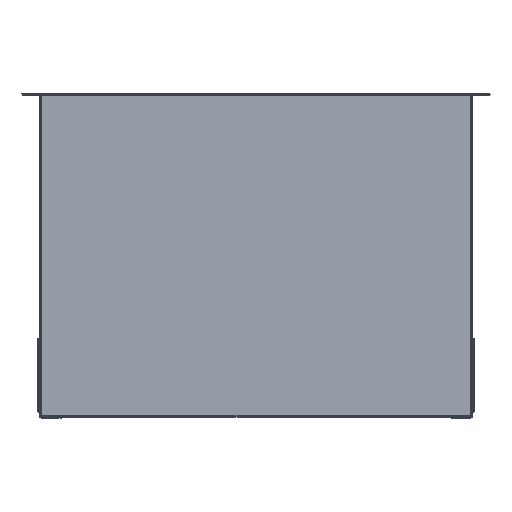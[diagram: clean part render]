
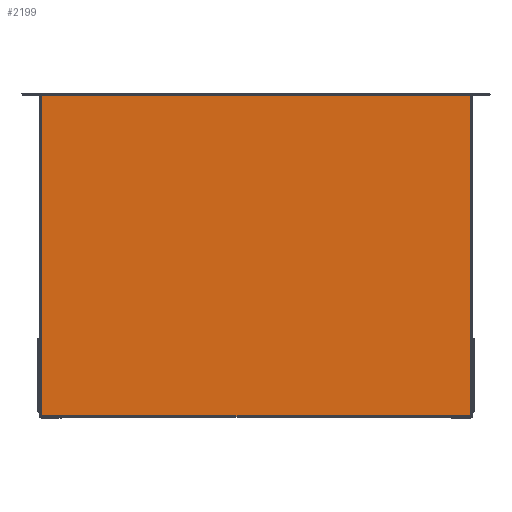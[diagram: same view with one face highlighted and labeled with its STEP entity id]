
A CAD part, front view. The second image highlights one B-rep face of the part: STEP entity #2199.
In plain terms, the highlighted planar face has unit normal (0, -1, -0.016) as drawn and (0, 0, -1) by its records, which use the part's own axes.
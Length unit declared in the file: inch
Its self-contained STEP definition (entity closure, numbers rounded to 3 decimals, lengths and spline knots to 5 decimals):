
#32 = VECTOR ( 'NONE', #24363, 39.37008 ) ;
#471 = DIRECTION ( 'NONE',  ( 1., 0., 0. ) ) ;
#1344 = ORIENTED_EDGE ( 'NONE', *, *, #24750, .F. ) ;
#1362 = ORIENTED_EDGE ( 'NONE', *, *, #22458, .F. ) ;
#1681 = ORIENTED_EDGE ( 'NONE', *, *, #26361, .F. ) ;
#1697 = CARTESIAN_POINT ( 'NONE',  ( 25.45213, 1.49421, 0. ) ) ;
#1872 = VERTEX_POINT ( 'NONE', #3473 ) ;
#1912 = VECTOR ( 'NONE', #471, 39.37008 ) ;
#2199 = ADVANCED_FACE ( 'NONE', ( #18298 ), #14501, .F. ) ;
#2871 = EDGE_CURVE ( 'NONE', #14526, #8689, #27487, .T. ) ;
#3134 = ORIENTED_EDGE ( 'NONE', *, *, #11231, .F. ) ;
#3299 = LINE ( 'NONE', #10433, #8438 ) ;
#3351 = LINE ( 'NONE', #14945, #25249 ) ;
#3473 = CARTESIAN_POINT ( 'NONE',  ( 50.62918, 1.50296, 0. ) ) ;
#3677 = DIRECTION ( 'NONE',  ( 0., 1., 0. ) ) ;
#3775 = EDGE_CURVE ( 'NONE', #8281, #1872, #14612, .T. ) ;
#3875 = DIRECTION ( 'NONE',  ( 0., 0., 1. ) ) ;
#4479 = ORIENTED_EDGE ( 'NONE', *, *, #12285, .F. ) ;
#4561 = ORIENTED_EDGE ( 'NONE', *, *, #7338, .F. ) ;
#4940 = LINE ( 'NONE', #12006, #26759 ) ;
#5034 = VECTOR ( 'NONE', #23589, 39.37008 ) ;
#5159 = VERTEX_POINT ( 'NONE', #14443 ) ;
#5654 = DIRECTION ( 'NONE',  ( -1., 0., 0. ) ) ;
#5814 = LINE ( 'NONE', #15849, #32 ) ;
#6433 = CARTESIAN_POINT ( 'NONE',  ( 25.45213, 35.33911, 0. ) ) ;
#6521 = VERTEX_POINT ( 'NONE', #6991 ) ;
#6991 = CARTESIAN_POINT ( 'NONE',  ( 25.40828, 35.33526, 0. ) ) ;
#7162 = ORIENTED_EDGE ( 'NONE', *, *, #3775, .F. ) ;
#7163 = EDGE_CURVE ( 'NONE', #8689, #16101, #10763, .T. ) ;
#7338 = EDGE_CURVE ( 'NONE', #26175, #26536, #12399, .T. ) ;
#7408 = DIRECTION ( 'NONE',  ( 1., 0., 0. ) ) ;
#7529 = CARTESIAN_POINT ( 'NONE',  ( 50.62918, 35.32651, 0. ) ) ;
#7702 = EDGE_CURVE ( 'NONE', #1872, #14526, #24853, .T. ) ;
#8015 = LINE ( 'NONE', #24993, #8664 ) ;
#8237 = CARTESIAN_POINT ( 'NONE',  ( 25.45213, 35.33911, 0. ) ) ;
#8281 = VERTEX_POINT ( 'NONE', #16083 ) ;
#8438 = VECTOR ( 'NONE', #16680, 39.37008 ) ;
#8664 = VECTOR ( 'NONE', #14481, 39.37008 ) ;
#8689 = VERTEX_POINT ( 'NONE', #9713 ) ;
#8801 = ORIENTED_EDGE ( 'NONE', *, *, #2871, .F. ) ;
#9412 = VECTOR ( 'NONE', #7408, 39.37008 ) ;
#9713 = CARTESIAN_POINT ( 'NONE',  ( 50.63303, 35.32651, 0. ) ) ;
#10144 = CARTESIAN_POINT ( 'NONE',  ( 50.62918, 1.50296, 0. ) ) ;
#10433 = CARTESIAN_POINT ( 'NONE',  ( 25.45213, 1.49421, 0. ) ) ;
#10763 = LINE ( 'NONE', #7529, #16262 ) ;
#11231 = EDGE_CURVE ( 'NONE', #5159, #23262, #3299, .T. ) ;
#11629 = CARTESIAN_POINT ( 'NONE',  ( 50.62918, 1.50296, 0. ) ) ;
#11936 = DIRECTION ( 'NONE',  ( -1., 0., 0. ) ) ;
#12006 = CARTESIAN_POINT ( 'NONE',  ( 25.24213, 35.33526, 0. ) ) ;
#12285 = EDGE_CURVE ( 'NONE', #26536, #26696, #25813, .T. ) ;
#12399 = LINE ( 'NONE', #8237, #18574 ) ;
#13315 = CARTESIAN_POINT ( 'NONE',  ( 25.45213, 1.49036, 0. ) ) ;
#13984 = VECTOR ( 'NONE', #3677, 39.37008 ) ;
#14374 = DIRECTION ( 'NONE',  ( 0., -1., 0. ) ) ;
#14443 = CARTESIAN_POINT ( 'NONE',  ( 25.40828, 1.49421, 0. ) ) ;
#14481 = DIRECTION ( 'NONE',  ( 0., -1., 0. ) ) ;
#14501 = PLANE ( 'NONE',  #16455 ) ;
#14526 = VERTEX_POINT ( 'NONE', #26266 ) ;
#14612 = LINE ( 'NONE', #10144, #13984 ) ;
#14945 = CARTESIAN_POINT ( 'NONE',  ( 25.45213, -0.28382, 0. ) ) ;
#15734 = CARTESIAN_POINT ( 'NONE',  ( 50.62918, 35.32651, 0. ) ) ;
#15849 = CARTESIAN_POINT ( 'NONE',  ( 50.62918, 35.32651, 0. ) ) ;
#16083 = CARTESIAN_POINT ( 'NONE',  ( 50.62918, 1.49036, 0. ) ) ;
#16101 = VERTEX_POINT ( 'NONE', #15734 ) ;
#16262 = VECTOR ( 'NONE', #11936, 39.37008 ) ;
#16455 = AXIS2_PLACEMENT_3D ( 'NONE', #1697, #3875, #18704 ) ;
#16680 = DIRECTION ( 'NONE',  ( 1., 0., 0. ) ) ;
#16941 = EDGE_CURVE ( 'NONE', #16101, #26175, #5814, .T. ) ;
#17404 = CARTESIAN_POINT ( 'NONE',  ( 25.45213, 35.33526, 0. ) ) ;
#17524 = ORIENTED_EDGE ( 'NONE', *, *, #7163, .F. ) ;
#17526 = CARTESIAN_POINT ( 'NONE',  ( 50.62918, 35.33911, 0. ) ) ;
#18298 = FACE_OUTER_BOUND ( 'NONE', #27138, .T. ) ;
#18574 = VECTOR ( 'NONE', #20769, 39.37008 ) ;
#18704 = DIRECTION ( 'NONE',  ( 1., 0., 0. ) ) ;
#19111 = VERTEX_POINT ( 'NONE', #23378 ) ;
#19651 = ORIENTED_EDGE ( 'NONE', *, *, #27011, .F. ) ;
#19862 = ORIENTED_EDGE ( 'NONE', *, *, #16941, .F. ) ;
#20400 = CARTESIAN_POINT ( 'NONE',  ( 25.45213, 1.49421, 0. ) ) ;
#20769 = DIRECTION ( 'NONE',  ( -1., 0., 0. ) ) ;
#21276 = DIRECTION ( 'NONE',  ( 0., -1., 0. ) ) ;
#21368 = CARTESIAN_POINT ( 'NONE',  ( 50.63303, 1.49421, 0. ) ) ;
#22458 = EDGE_CURVE ( 'NONE', #23262, #19111, #3351, .T. ) ;
#23262 = VERTEX_POINT ( 'NONE', #20400 ) ;
#23378 = CARTESIAN_POINT ( 'NONE',  ( 25.45213, 1.49036, 0. ) ) ;
#23589 = DIRECTION ( 'NONE',  ( 0., 1., 0. ) ) ;
#24363 = DIRECTION ( 'NONE',  ( 0., 1., 0. ) ) ;
#24540 = LINE ( 'NONE', #13315, #1912 ) ;
#24750 = EDGE_CURVE ( 'NONE', #19111, #8281, #24540, .T. ) ;
#24853 = LINE ( 'NONE', #11629, #9412 ) ;
#24866 = CARTESIAN_POINT ( 'NONE',  ( 25.45213, 35.33526, 0. ) ) ;
#24993 = CARTESIAN_POINT ( 'NONE',  ( 25.40828, 1.49421, 0. ) ) ;
#25146 = VECTOR ( 'NONE', #14374, 39.37008 ) ;
#25249 = VECTOR ( 'NONE', #21276, 39.37008 ) ;
#25813 = LINE ( 'NONE', #24866, #25146 ) ;
#26175 = VERTEX_POINT ( 'NONE', #17526 ) ;
#26266 = CARTESIAN_POINT ( 'NONE',  ( 50.63303, 1.50296, 0. ) ) ;
#26361 = EDGE_CURVE ( 'NONE', #26696, #6521, #4940, .T. ) ;
#26536 = VERTEX_POINT ( 'NONE', #6433 ) ;
#26696 = VERTEX_POINT ( 'NONE', #17404 ) ;
#26759 = VECTOR ( 'NONE', #5654, 39.37008 ) ;
#26863 = ORIENTED_EDGE ( 'NONE', *, *, #7702, .F. ) ;
#27011 = EDGE_CURVE ( 'NONE', #6521, #5159, #8015, .T. ) ;
#27138 = EDGE_LOOP ( 'NONE', ( #19651, #1681, #4479, #4561, #19862, #17524, #8801, #26863, #7162, #1344, #1362, #3134 ) ) ;
#27487 = LINE ( 'NONE', #21368, #5034 ) ;
